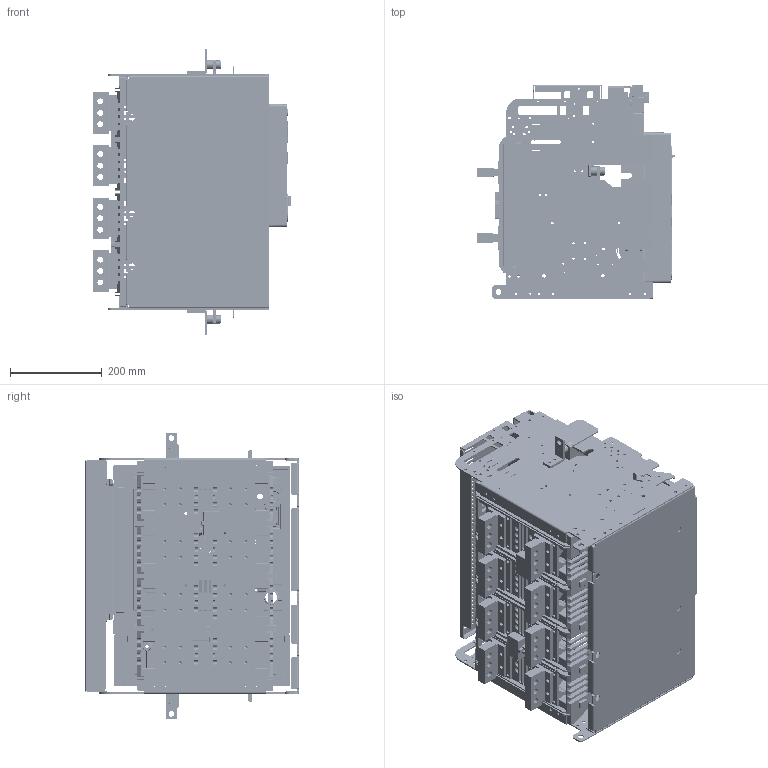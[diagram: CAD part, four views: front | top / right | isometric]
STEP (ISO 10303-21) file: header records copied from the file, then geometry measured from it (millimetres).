
FILE_DESCRIPTION((''),'2;1');
FILE_NAME('HG_13_B324H_ASM_ASM','2019-03-27T',('HHI'),(''),'PRO/ENGINEER BY PARAMETRIC TECHNOLOGY CORPORATION, 2012453','PRO/ENGINEER BY PARAMETRIC TECHNOLOGY CORPORATION, 2012453','');
FILE_SCHEMA(('CONFIG_CONTROL_DESIGN'));
Products named in the file (43): PRT0124; PRT0125; ASM0036_ASM; PRT0126; PRT0127; PRT0128; ASM0037_ASM; PRT0129; PRT0130; PRT0131; PRT0132; PRT0133; PRT0134; PRT0135; PRT0137; PRT0138; PRT0139; PRT0140; ASM0040_ASM; PRT0141; PRT0142; PRT0143; ASM0041_ASM; PRT0146; ASM0039_ASM; PRT0147; ASM0038_ASM; PRT0148; PRT0149; PRT0150; PRT0151; PRT0152; ASM0042_ASM; PRT0153; PRT0154; FIX_BLOCK_CRADLE_6; BOLT_5; ASM0043_ASM; B324H_ASM_10_ASM; HG_FRONT_COVER_40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
Assembly tree (56 placements, depth 6):
  HG_13_B324H_ASM_ASM
    B324H_ASM_10_ASM
      ASM0036_ASM
        PRT0124
        PRT0125
      PRT0126
      ASM0037_ASM
        PRT0127
        PRT0128
      PRT0129
      PRT0130
      PRT0131
      PRT0132
      PRT0133  x8
      PRT0134  x8
      ASM0038_ASM
        ASM0039_ASM
          PRT0135
          ASM0040_ASM
            PRT0137
            PRT0138
            PRT0139
            PRT0140
          ASM0041_ASM
            PRT0141
            PRT0142
            PRT0143
          PRT0146
        PRT0147
      PRT0148
      ASM0042_ASM
        PRT0149
        PRT0150
        PRT0151
        PRT0152
      ASM0043_ASM
        PRT0153
        PRT0154
        FIX_BLOCK_CRADLE_6
        BOLT_5
    HG_FRONT_COVER_40
    4AT-06477S03
    4AT-06477S04
Bounding box: 430.03 x 466.35 x 626 mm (x, y, z)
Volume: 7252367.7 mm3; surface area: 4050761.3 mm2
Topology: 47 solids, 47 shells, 15696 faces, 46164 edges, 30108 vertices
Faces by surface type: plane 11412, cylinder 3515, torus 251, sphere 164, extrusion 141, cone 132, bspline 81
Entity records: 496033 total; most frequent: CARTESIAN_POINT 94396, ORIENTED_EDGE 86846, DIRECTION 78848, EDGE_CURVE 43423, VECTOR 36186, LINE 36045, VERTEX_POINT 28316, AXIS2_PLACEMENT_3D 21331
